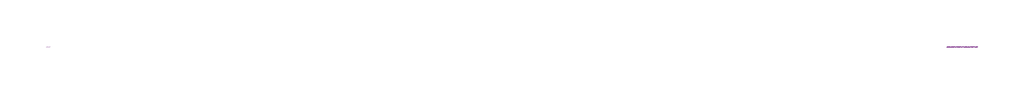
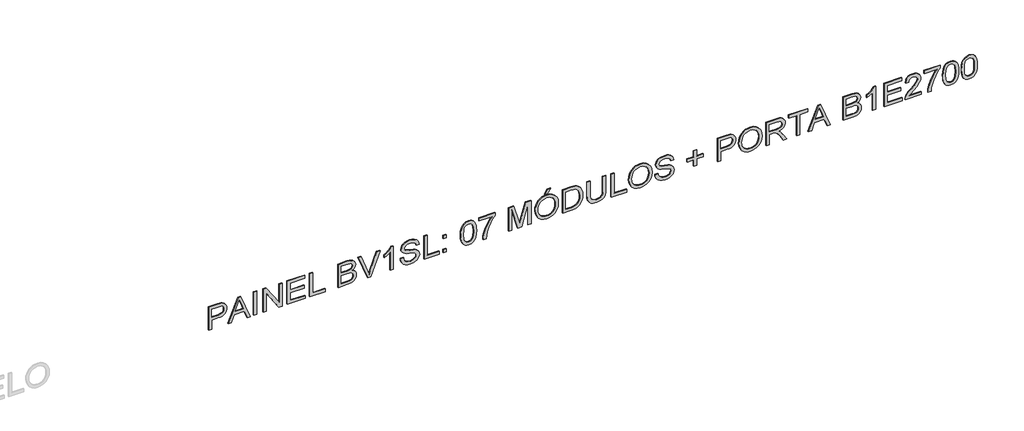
# One storey, part 2 of 2: 1 proxy.
"""IFC4 building model written with IfcOpenShell, lengths in millimetres."""

from ifc_helpers import new_model, si_unit, frame, origin, place, context, project, spatial, polyline, outline, extrude, element, save

model = new_model("IFC4")

# Units and contexts
model_context = context("Model", 3, world=origin())
ifc_project = project(units=[si_unit("LENGTHUNIT", "METRE", prefix="MILLI")], contexts=[model_context])

# Site, building, storey
site = spatial("IfcSite", under=ifc_project)
building = spatial("IfcBuilding", under=site)
storey = spatial("IfcBuildingStorey", under=building, Name="03 - Marelli - Planta Baixa - Exemplo", Elevation=-24000.0)

# Proxy
placement = place(None, origin())
element("IfcBuildingElementProxy", 1, Name="300mm Arial", ObjectType="300mm Arial", at=placement, inside=storey, context=model_context, shape_type="SweptSolid", body=[
    extrude(outline(polyline([(-18300.0, -3271.5424796), (-18300.0, -3233.8713633), (-18177.568872, -3233.8713633), (-18177.568872, -3157.2783319), (-18175.904206, -3128.0799978), (-18170.9102079, -3103.7606987), (-18162.5868778, -3084.3204345), (-18150.9342156, -3069.7592053), (-18136.8765248, -3059.1527075), (-18121.338109, -3051.5766377), (-18104.3189682, -3047.0309958), (-18085.8191024, -3045.5157818), (-18064.362385, -3047.759862), (-18044.7266835, -3054.4921025), (-18028.0800233, -3064.91236), (-18015.5904295, -3078.2204912), (-18006.8624292, -3094.7475898), (-18001.5005491, -3114.8247497), (-17998.6310696, -3159.8535059), (-17998.6310696, -3271.5424796), (-18300.0, -3271.5424796)]), holes=[polyline([(-18139.8977557, -3233.8713633), (-18036.3021859, -3233.8713633), (-18036.3021859, -3155.9539568), (-18038.8773598, -3118.2828405), (-18045.2049301, -3104.0550043), (-18055.9470844, -3092.8621946), (-18070.2209058, -3085.6057222), (-18087.1434776, -3083.1868981), (-18109.4187324, -3087.2887824), (-18126.0653927, -3099.5944351), (-18136.4396649, -3121.6673548), (-18139.8977557, -3155.07104), (-18139.8977557, -3233.8713633)])]), frame((0.0, 8778.3159498, 0.0), z_axis=(0.0, 1.0, 0.0), x_axis=(0.0, 0.0, 1.0)), (0.0, 0.0, 1.0), 10.0),
    extrude(outline(polyline([(-18300.0, -3028.8139392), (-18300.0, -2989.0091074), (-18205.8222092, -2954.5753526), (-18205.8222092, -2830.4519674), (-18300.0, -2795.9446363), (-18300.0, -2756.1398044), (-17998.6310696, -2876.4372168), (-17998.6310696, -2908.5165268), (-18300.0, -3028.8139392)]), holes=[polyline([(-18168.1510929, -2940.7429896), (-18087.584936, -2911.2388536), (-18036.3021859, -2892.4768718), (-18094.0596591, -2871.3604453), (-18168.1510929, -2844.210754), (-18168.1510929, -2940.7429896)])]), frame((0.0, 8778.3159498, 0.0), z_axis=(0.0, 1.0, 0.0), x_axis=(0.0, 0.0, 1.0)), (0.0, 0.0, 1.0), 10.0),
    extrude(outline(polyline([(-2673.5135083, 8778.3159498), (-2711.1846246, 8778.3159498), (-2711.1846246, 8788.3159498), (-2673.5135083, 8788.3159498), (-2673.5135083, 8778.3159498)])), frame((0.0, 0.0, -18300.0), z_axis=(0.0, 0.0, 1.0), x_axis=(1.0, 0.0, 0.0)), (0.0, 0.0, 1.0), 301.3689304),
    extrude(outline(polyline([(-18300.0, -2598.1712757), (-18300.0, -2560.5001594), (-18061.1710087, -2560.5001594), (-18300.0, -2403.0466654), (-18300.0, -2362.7267988), (-17998.6310696, -2362.7267988), (-17998.6310696, -2400.3979151), (-18237.3864844, -2400.3979151), (-17998.6310696, -2557.851409), (-17998.6310696, -2598.1712757), (-18300.0, -2598.1712757)])), frame((0.0, 8778.3159498, 0.0), z_axis=(0.0, 1.0, 0.0), x_axis=(0.0, 0.0, 1.0)), (0.0, 0.0, 1.0), 10.0),
    extrude(outline(polyline([(-18300.0, -2296.8023452), (-18300.0, -2075.4845369), (-18262.3288837, -2075.4845369), (-18262.3288837, -2259.1312289), (-18163.4422034, -2259.1312289), (-18163.4422034, -2089.6112055), (-18125.7710871, -2089.6112055), (-18125.7710871, -2259.1312289), (-18036.3021859, -2259.1312289), (-18036.3021859, -2080.1934265), (-17998.6310696, -2080.1934265), (-17998.6310696, -2296.8023452), (-18300.0, -2296.8023452)])), frame((0.0, 8778.3159498, 0.0), z_axis=(0.0, 1.0, 0.0), x_axis=(0.0, 0.0, 1.0)), (0.0, 0.0, 1.0), 10.0),
    extrude(outline(polyline([(-18300.0, -2018.9778625), (-18300.0, -1830.6222809), (-18262.3288837, -1830.6222809), (-18262.3288837, -1981.3067462), (-17998.6310696, -1981.3067462), (-17998.6310696, -2018.9778625), (-18300.0, -2018.9778625)])), frame((0.0, 8778.3159498, 0.0), z_axis=(0.0, 1.0, 0.0), x_axis=(0.0, 0.0, 1.0)), (0.0, 0.0, 1.0), 10.0),
    extrude(outline(polyline([(-18300.0, -1670.5200366), (-18300.0, -1556.4030417), (-18294.8128639, -1508.1001358), (-18288.3933231, -1490.064721), (-18279.5089729, -1475.32185), (-18267.2401083, -1463.2829117), (-18250.6670244, -1453.3592949), (-18231.1784758, -1446.7098278), (-18210.1632168, -1444.4933388), (-18184.944906, -1447.7398974), (-18163.2950506, -1457.4795732), (-18146.3356906, -1473.2525138), (-18135.1888662, -1494.5988665), (-18123.4442335, -1476.7289986), (-18108.5174215, -1464.0278727), (-18091.456894, -1456.4403066), (-18073.3111146, -1453.9111179), (-18053.5926396, -1456.9185532), (-18034.7570815, -1465.9408591), (-18018.7450176, -1480.2698628), (-18007.4970256, -1499.1973915), (-18000.8475586, -1523.8914704), (-17998.6310696, -1555.5201249), (-17998.6310696, -1670.5200366), (-18300.0, -1670.5200366)]), holes=[polyline([(-18121.0621975, -1632.8489203), (-18036.3021859, -1632.8489203), (-18036.3021859, -1569.2789116), (-18040.2385232, -1520.865641), (-18045.8395266, -1508.3760473), (-18054.769862, -1499.1606033), (-18066.2109921, -1493.4768265), (-18079.3443793, -1491.5822342), (-18092.8732397, -1493.6147822), (-18103.8821084, -1499.7124263), (-18112.2422267, -1509.8199841), (-18117.824836, -1523.8822734), (-18121.0621975, -1564.0549872), (-18121.0621975, -1632.8489203)]), polyline([(-18262.3288837, -1632.8489203), (-18158.7333139, -1632.8489203), (-18158.7333139, -1559.2725213), (-18159.9933097, -1532.4447268), (-18163.7732972, -1512.7354489), (-18170.6618875, -1498.8203124), (-18181.247692, -1489.3749422), (-18194.7857494, -1483.9670769), (-18210.5310988, -1482.1644551), (-18224.0875503, -1483.7003624), (-18235.9149564, -1488.3080844), (-18252.6535872, -1503.9798574), (-18260.8573557, -1527.6346697), (-18262.3288837, -1555.5937013), (-18262.3288837, -1632.8489203)])]), frame((0.0, 8778.3159498, 0.0), z_axis=(0.0, 1.0, 0.0), x_axis=(0.0, 0.0, 1.0)), (0.0, 0.0, 1.0), 10.0),
    extrude(outline(polyline([(-18300.0, -1303.668111), (-18300.0, -1264.746196), (-17998.6310696, -1149.8934371), (-17998.6310696, -1190.2133037), (-18215.7550231, -1270.7058843), (-18264.6833285, -1286.7455393), (-18215.7550231, -1303.0059235), (-17998.6310696, -1383.2777748), (-17998.6310696, -1423.5976415), (-18300.0, -1303.668111)])), frame((0.0, 8778.3159498, 0.0), z_axis=(0.0, 1.0, 0.0), x_axis=(0.0, 0.0, 1.0)), (0.0, 0.0, 1.0), 10.0),
    extrude(outline(polyline([(-18300.0, -987.7310536), (-17998.6310696, -987.7310536), (-17998.6310696, -1012.0112653), (-18018.3679386, -1025.3193964), (-18038.730207, -1045.525315), (-18057.8784649, -1071.157493), (-18073.9733022, -1100.7444025), (-18109.5842793, -1100.7444025), (-18090.5647801, -1061.0867234), (-18065.1441343, -1025.4021699), (-18300.0, -1025.4021699), (-18300.0, -987.7310536)])), frame((0.0, 8778.3159498, 0.0), z_axis=(0.0, 1.0, 0.0), x_axis=(0.0, 0.0, 1.0)), (0.0, 0.0, 1.0), 10.0),
    extrude(outline(polyline([(-18196.4044302, -898.2621524), (-18226.8282712, -893.7923861), (-18253.9411742, -882.0017682), (-18276.1980349, -863.6352596), (-18292.0537489, -839.4378213), (-18301.5451044, -809.0599656), (-18304.7088895, -772.1522044), (-18301.7750306, -742.0870484), (-18292.9734539, -715.1672834), (-18278.8835735, -692.781664), (-18260.0848035, -676.3189447), (-18238.2418101, -666.1929928), (-18215.0192591, -662.8176754), (-18192.3025459, -665.7515344), (-18172.4185241, -674.5531111), (-18155.5511346, -689.5351053), (-18141.8843185, -711.0102168), (-18133.0735447, -736.1365571), (-18122.9751839, -777.6704343), (-18112.3433943, -817.9167246), (-18101.9323338, -839.1803039), (-18090.2888686, -848.1750187), (-18075.8127121, -851.173257), (-18058.8349581, -846.942614), (-18044.5427425, -834.2506852), (-18034.8306579, -812.3065242), (-18031.5932963, -780.3191847), (-18034.8674461, -749.0676092), (-18044.6898953, -726.534837), (-18060.9134913, -712.1138628), (-18083.3910812, -705.1976813), (-18083.3910812, -667.526565), (-18058.4302879, -671.775602), (-18036.2286095, -682.462574), (-18017.9264802, -699.3483576), (-18004.6643343, -722.1938295), (-17996.6077186, -750.0057083), (-17993.92218, -781.7907127), (-17996.4881569, -811.1293018), (-18004.1860877, -837.6351996), (-18016.8412283, -859.7173163), (-18034.2788349, -875.7845625), (-18054.8526355, -885.5794206), (-18076.9163581, -888.8443733), (-18096.6532272, -886.20482), (-18114.3667452, -878.28616), (-18129.7258185, -864.9964229), (-18142.3993533, -846.2436382), (-18151.4584474, -823.2050283), (-18160.977394, -787.198578), (-18175.36158, -732.3473725), (-18183.1698754, -716.2709293), (-18192.4680928, -706.7427857), (-18203.3665969, -702.0522902), (-18215.9757523, -700.4887918), (-18228.9160015, -702.5765221), (-18241.2492454, -708.839713), (-18251.9913996, -719.3703352), (-18260.1583799, -734.2603589), (-18265.3179249, -752.6360646), (-18267.0377732, -773.6237324), (-18264.7661019, -797.4624857), (-18257.951088, -818.7996414), (-18247.448057, -836.2556421), (-18234.1123347, -848.4509302), (-18217.3093245, -856.2684226), (-18196.4044302, -860.5910361), (-18196.4044302, -898.2621524)])), frame((0.0, 8778.3159498, 0.0), z_axis=(0.0, 1.0, 0.0), x_axis=(0.0, 0.0, 1.0)), (0.0, 0.0, 1.0), 10.0),
    extrude(outline(polyline([(-18300.0, -606.311001), (-18300.0, -417.9554195), (-18262.3288837, -417.9554195), (-18262.3288837, -568.6398847), (-17998.6310696, -568.6398847), (-17998.6310696, -606.311001), (-18300.0, -606.311001)])), frame((0.0, 8778.3159498, 0.0), z_axis=(0.0, 1.0, 0.0), x_axis=(0.0, 0.0, 1.0)), (0.0, 0.0, 1.0), 10.0),
    extrude(outline(polyline([(-333.1954078, 8778.3159498), (-370.8665241, 8778.3159498), (-370.8665241, 8788.3159498), (-333.1954078, 8788.3159498), (-333.1954078, 8778.3159498)])), frame((0.0, 0.0, -18116.353308), z_axis=(0.0, 0.0, 1.0), x_axis=(1.0, 0.0, 0.0)), (0.0, 0.0, 1.0), 37.6711163),
    extrude(outline(polyline([(-333.1954078, 8778.3159498), (-370.8665241, 8778.3159498), (-370.8665241, 8788.3159498), (-333.1954078, 8788.3159498), (-333.1954078, 8778.3159498)])), frame((0.0, 0.0, -18300.0), z_axis=(0.0, 0.0, 1.0), x_axis=(1.0, 0.0, 0.0)), (0.0, 0.0, 1.0), 37.6711163),
    extrude(outline(polyline([(-18151.7435559, -154.2576053), (-18191.1851044, -152.3814071), (-18225.0440435, -146.7528126), (-18253.3203733, -137.3718217), (-18276.0140939, -124.2384345), (-18288.568067, -110.5532243), (-18297.5351906, -94.5135693), (-18302.9154648, -76.1194695), (-18304.7088895, -55.370925), (-18300.5794141, -24.9194929), (-18288.190988, -0.2254139), (-18267.4056552, 18.8768587), (-18238.0854602, 32.5528718), (-18199.7061711, 40.7750344), (-18151.7435559, 43.5157553), (-18111.7823742, 41.805104), (-18080.9262719, 36.6731502), (-18056.6276661, 28.8372637), (-18036.3389741, 19.0148144), (-18020.1981515, 6.0101859), (-18008.3431542, -11.3722384), (-18001.0590907, -32.1575711), (-17998.6310696, -55.370925), (-18002.7329538, -85.6568103), (-18015.0386065, -110.2957069), (-18035.7411658, -129.4255706), (-18065.0337697, -143.1843573), (-18103.5050293, -151.4892933), (-18151.7435559, -154.2576053)]), holes=[polyline([(-18151.6699795, -116.586489), (-18093.1767423, -112.0247523), (-18072.097104, -106.3225813), (-18056.4621192, -98.3395421), (-18041.3421692, -79.3936193), (-18036.3021859, -55.8123834), (-18042.0227509, -30.9067723), (-18059.184446, -11.2250856), (-18073.5456393, -3.7570811), (-18093.7469594, 1.5772078), (-18151.6699795, 5.844639), (-18210.8346014, 1.430055), (-18231.0980016, -4.0881749), (-18245.1487945, -11.8136968), (-18261.5655286, -31.5321717), (-18267.0377732, -55.370925), (-18261.5839227, -79.2096783), (-18245.2223709, -98.9281532), (-18231.1945706, -106.6536751), (-18210.9265719, -112.1719051), (-18151.6699795, -116.586489)])]), frame((0.0, 8778.3159498, 0.0), z_axis=(0.0, 1.0, 0.0), x_axis=(0.0, 0.0, 1.0)), (0.0, 0.0, 1.0), 10.0),
    extrude(outline(polyline([(-18041.0110754, 76.4779821), (-18041.0110754, 236.5802264), (-18076.3553381, 207.2600313), (-18118.9652702, 179.6320935), (-18166.1001508, 155.9680842), (-18215.0192591, 138.5396746), (-18261.1700554, 127.6411705), (-18300.0, 123.5668774), (-18300.0, 161.2379937), (-18257.2705063, 166.2411889), (-18218.1094679, 175.2175096), (-18165.769057, 193.5288359), (-18114.8449918, 218.1493384), (-18069.4759448, 246.0623848), (-18033.8005883, 274.2513427), (-18003.3399591, 274.2513427), (-18003.3399591, 76.4779821), (-18041.0110754, 76.4779821)])), frame((0.0, 8778.3159498, 0.0), z_axis=(0.0, 1.0, 0.0), x_axis=(0.0, 0.0, 1.0)), (0.0, 0.0, 1.0), 10.0),
    extrude(outline(polyline([(-18300.0, 439.0624765), (-18300.0, 476.7335928), (-18036.3021859, 476.7335928), (-18300.0, 552.4437074), (-18300.0, 603.5057283), (-18036.3021859, 679.215843), (-18300.0, 679.215843), (-18300.0, 716.8869593), (-17998.6310696, 716.8869593), (-17998.6310696, 652.0661517), (-18207.3673136, 591.4391989), (-18255.4127022, 577.9747179), (-18211.0461336, 565.5403064), (-17998.6310696, 503.8832841), (-17998.6310696, 439.0624765), (-18300.0, 439.0624765)])), frame((0.0, 8778.3159498, 0.0), z_axis=(0.0, 1.0, 0.0), x_axis=(0.0, 0.0, 1.0)), (0.0, 0.0, 1.0), 10.0),
    extrude(outline(polyline([(-18153.2886603, 768.6847442), (-18191.8334964, 772.9889635), (-18228.2997991, 785.9016216), (-18259.992833, 807.1652009), (-18284.2178624, 836.5221841), (-18299.5861328, 872.1699494), (-18304.7088895, 912.3058751), (-18300.0735764, 950.1149472), (-18286.167637, 985.2568747), (-18263.2485887, 1015.2208633), (-18231.5739489, 1037.4961181), (-18193.1118863, 1051.319284), (-18149.8305696, 1055.927006), (-18107.1194699, 1051.5492103), (-18069.1908362, 1038.415823), (-18037.5713787, 1016.9315145), (-18013.7878078, 987.5009549), (-17998.8885869, 952.0555247), (-17993.92218, 912.5266043), (-17996.5663319, 882.2361205), (-18004.4987874, 854.8611016), (-18017.7195466, 830.4015474), (-18036.2286095, 808.8574581), (-18059.4097737, 791.2818957), (-18086.6468369, 778.7279227), (-18117.9397991, 771.1955388), (-18153.2886603, 768.6847442)]), holes=[polyline([(-18153.6565423, 806.3558605), (-18123.1200375, 808.3194306), (-18097.2878236, 814.2101411), (-18076.1599008, 824.0279918), (-18059.736269, 837.7729829), (-18047.4237184, 854.2403007), (-18038.6290395, 872.2251317), (-18033.3522321, 891.727476), (-18031.5932963, 912.7473335), (-18035.2445251, 941.9111787), (-18046.1982115, 968.0399974), (-18063.7921679, 989.6990498), (-18087.3642068, 1005.4535963), (-18116.1877611, 1015.0553164), (-18149.536264, 1018.2558897), (-18176.0743514, 1016.3865893), (-18199.4026684, 1010.7786882), (-18219.521215, 1001.4321862), (-18236.4299912, 988.3470835), (-18249.8208959, 972.3649101), (-18259.3858277, 954.327196), (-18265.1247869, 934.2339413), (-18267.0377732, 912.0851459), (-18265.143181, 890.3088311), (-18259.4594041, 870.4501011), (-18249.9864428, 852.508956), (-18236.7242968, 836.4853959), (-18220.1650085, 823.3037242), (-18200.80062, 813.8882443), (-18178.6311313, 808.2389565), (-18153.6565423, 806.3558605)])]), frame((0.0, 8778.3159498, 0.0), z_axis=(0.0, 1.0, 0.0), x_axis=(0.0, 0.0, 1.0)), (0.0, 0.0, 1.0), 10.0),
    extrude(outline(polyline([(-17979.7955114, 886.4069826), (-17979.7955114, 914.6603199), (-17923.2888369, 961.7492153), (-17923.2888369, 914.6603199), (-17979.7955114, 886.4069826)])), frame((0.0, 8778.3159498, 0.0), z_axis=(0.0, 1.0, 0.0), x_axis=(0.0, 0.0, 1.0)), (0.0, 0.0, 1.0), 10.0),
    extrude(outline(polyline([(-18300.0, 1107.7247909), (-18300.0, 1216.6914379), (-18294.8496521, 1265.1414967), (-18288.4944906, 1284.6852277), (-18279.7297021, 1301.157144), (-18267.911493, 1315.5045418), (-18252.3960698, 1328.6747172), (-18232.7419742, 1340.1158473), (-18208.5077478, 1349.276109), (-18180.0428784, 1355.2909796), (-18147.696854, 1357.2959365), (-18109.6210675, 1354.3344864), (-18076.0334413, 1345.4501362), (-18047.4857985, 1330.6060977), (-18024.529962, 1309.7655827), (-18011.3413925, 1289.4952848), (-18002.9720771, 1265.4725905), (-17998.6310696, 1211.6882428), (-17998.6310696, 1107.7247909), (-18300.0, 1107.7247909)]), holes=[polyline([(-18262.3288837, 1145.3959072), (-18036.3021859, 1145.3959072), (-18036.3021859, 1211.0260552), (-18037.810502, 1242.7742714), (-18042.3354506, 1264.4425209), (-18054.9170148, 1285.7336914), (-18075.7391357, 1303.548377), (-18106.0526121, 1315.6057094), (-18147.1082428, 1319.6248202), (-18178.0931038, 1317.573878), (-18204.0931639, 1311.4210517), (-18225.2003933, 1301.5894053), (-18241.5067628, 1288.5020034), (-18250.3175366, 1276.3251093), (-18256.8842302, 1260.5429717), (-18260.9677203, 1239.6288803), (-18262.3288837, 1212.0561248), (-18262.3288837, 1145.3959072)])]), frame((0.0, 8778.3159498, 0.0), z_axis=(0.0, 1.0, 0.0), x_axis=(0.0, 0.0, 1.0)), (0.0, 0.0, 1.0), 10.0),
    extrude(outline(polyline([(-17998.6310696, 1606.867082), (-18171.1677253, 1606.867082), (-18218.3301971, 1602.1030102), (-18235.0688279, 1596.1479204), (-18247.2457219, 1587.8107946), (-18255.9047444, 1576.6777658), (-18262.0897604, 1562.3349665), (-18267.0377732, 1524.0200567), (-18264.5361757, 1499.8502096), (-18257.031383, 1479.7270645), (-18244.9188683, 1464.2944148), (-18228.5941047, 1454.196054), (-18205.0220659, 1448.6226418), (-18171.1677253, 1446.7648377), (-17998.6310696, 1446.7648377), (-17998.6310696, 1409.0937214), (-18172.4921005, 1409.0937214), (-18215.2675795, 1411.9540039), (-18247.9446977, 1420.5348514), (-18272.3076828, 1435.8019542), (-18290.1407625, 1458.7210025), (-18301.0668578, 1489.3011934), (-18304.7088895, 1527.5517238), (-18300.5242318, 1566.6575799), (-18287.9702588, 1597.4493029), (-18268.7484245, 1619.9820751), (-18244.5601833, 1634.3110788), (-18213.2074403, 1641.9814184), (-18172.4921005, 1644.5381983), (-17998.6310696, 1644.5381983), (-17998.6310696, 1606.867082)])), frame((0.0, 8778.3159498, 0.0), z_axis=(0.0, 1.0, 0.0), x_axis=(0.0, 0.0, 1.0)), (0.0, 0.0, 1.0), 10.0),
    extrude(outline(polyline([(-18300.0, 1710.4626518), (-18300.0, 1898.8182334), (-18262.3288837, 1898.8182334), (-18262.3288837, 1748.1337681), (-17998.6310696, 1748.1337681), (-17998.6310696, 1710.4626518), (-18300.0, 1710.4626518)])), frame((0.0, 8778.3159498, 0.0), z_axis=(0.0, 1.0, 0.0), x_axis=(0.0, 0.0, 1.0)), (0.0, 0.0, 1.0), 10.0),
    extrude(outline(polyline([(-18153.2886603, 1927.0715706), (-18191.8334964, 1931.3757899), (-18228.2997991, 1944.288448), (-18259.992833, 1965.5520273), (-18284.2178624, 1994.9090105), (-18299.5861328, 2030.5567758), (-18304.7088895, 2070.6927015), (-18300.0735764, 2108.5017736), (-18286.167637, 2143.6437012), (-18263.2485887, 2173.6076897), (-18231.5739489, 2195.8829445), (-18193.1118863, 2209.7061104), (-18149.8305696, 2214.3138324), (-18107.1194699, 2209.9360367), (-18069.1908362, 2196.8026495), (-18037.5713787, 2175.3183409), (-18013.7878078, 2145.8877813), (-17998.8885869, 2110.4423511), (-17993.92218, 2070.9134307), (-17996.5663319, 2040.6229469), (-18004.4987874, 2013.247928), (-18017.7195466, 1988.7883738), (-18036.2286095, 1967.2442845), (-18059.4097737, 1949.6687221), (-18086.6468369, 1937.1147491), (-18117.9397991, 1929.5823652), (-18153.2886603, 1927.0715706)]), holes=[polyline([(-18153.6565423, 1964.7426869), (-18123.1200375, 1966.7062571), (-18097.2878236, 1972.5969675), (-18076.1599008, 1982.4148182), (-18059.736269, 1996.1598093), (-18047.4237184, 2012.6271271), (-18038.6290395, 2030.6119581), (-18033.3522321, 2050.1143024), (-18031.5932963, 2071.1341599), (-18035.2445251, 2100.2980051), (-18046.1982115, 2126.4268238), (-18063.7921679, 2148.0858762), (-18087.3642068, 2163.8404227), (-18116.1877611, 2173.4421428), (-18149.536264, 2176.6427161), (-18176.0743514, 2174.7734157), (-18199.4026684, 2169.1655146), (-18219.521215, 2159.8190126), (-18236.4299912, 2146.7339099), (-18249.8208959, 2130.7517365), (-18259.3858277, 2112.7140224), (-18265.1247869, 2092.6207677), (-18267.0377732, 2070.4719723), (-18265.143181, 2048.6956575), (-18259.4594041, 2028.8369275), (-18249.9864428, 2010.8957825), (-18236.7242968, 1994.8722223), (-18220.1650085, 1981.6905506), (-18200.80062, 1972.2750708), (-18178.6311313, 1966.6257829), (-18153.6565423, 1964.7426869)])]), frame((0.0, 8778.3159498, 0.0), z_axis=(0.0, 1.0, 0.0), x_axis=(0.0, 0.0, 1.0)), (0.0, 0.0, 1.0), 10.0),
    extrude(outline(polyline([(-18196.4044302, 2251.9849487), (-18226.8282712, 2256.454715), (-18253.9411742, 2268.2453329), (-18276.1980349, 2286.6118415), (-18292.0537489, 2310.8092798), (-18301.5451044, 2341.1871355), (-18304.7088895, 2378.0948967), (-18301.7750306, 2408.1600527), (-18292.9734539, 2435.0798177), (-18278.8835735, 2457.4654371), (-18260.0848035, 2473.9281564), (-18238.2418101, 2484.0541083), (-18215.0192591, 2487.4294256), (-18192.3025459, 2484.4955667), (-18172.4185241, 2475.69399), (-18155.5511346, 2460.7119957), (-18141.8843185, 2439.2368843), (-18133.0735447, 2414.110544), (-18122.9751839, 2372.5766668), (-18112.3433943, 2332.3303765), (-18101.9323338, 2311.0667972), (-18090.2888686, 2302.0720824), (-18075.8127121, 2299.0738441), (-18058.8349581, 2303.3044871), (-18044.5427425, 2315.9964159), (-18034.8306579, 2337.9405769), (-18031.5932963, 2369.9279164), (-18034.8674461, 2401.1794919), (-18044.6898953, 2423.7122641), (-18060.9134913, 2438.1332383), (-18083.3910812, 2445.0494198), (-18083.3910812, 2482.7205361), (-18058.4302879, 2478.4714991), (-18036.2286095, 2467.7845271), (-18017.9264802, 2450.8987435), (-18004.6643343, 2428.0532716), (-17996.6077186, 2400.2413928), (-17993.92218, 2368.4563884), (-17996.4881569, 2339.1177993), (-18004.1860877, 2312.6119015), (-18016.8412283, 2290.5297848), (-18034.2788349, 2274.4625386), (-18054.8526355, 2264.6676805), (-18076.9163581, 2261.4027278), (-18096.6532272, 2264.0422811), (-18114.3667452, 2271.9609411), (-18129.7258185, 2285.2506781), (-18142.3993533, 2304.0034629), (-18151.4584474, 2327.0420728), (-18160.977394, 2363.0485231), (-18175.36158, 2417.8997286), (-18183.1698754, 2433.9761717), (-18192.4680928, 2443.5043154), (-18203.3665969, 2448.1948109), (-18215.9757523, 2449.7583093), (-18228.9160015, 2447.670579), (-18241.2492454, 2441.4073881), (-18251.9913996, 2430.8767659), (-18260.1583799, 2415.9867422), (-18265.3179249, 2397.6110365), (-18267.0377732, 2376.6233687), (-18264.7661019, 2352.7846154), (-18257.951088, 2331.4474597), (-18247.448057, 2313.991459), (-18234.1123347, 2301.7961709), (-18217.3093245, 2293.9786785), (-18196.4044302, 2289.656065), (-18196.4044302, 2251.9849487)])), frame((0.0, 8778.3159498, 0.0), z_axis=(0.0, 1.0, 0.0), x_axis=(0.0, 0.0, 1.0)), (0.0, 0.0, 1.0), 10.0),
    extrude(outline(polyline([(-18252.9111046, 2732.2916816), (-18252.9111046, 2769.9627979), (-18172.8599825, 2769.9627979), (-18172.8599825, 2850.0139201), (-18135.1888662, 2850.0139201), (-18135.1888662, 2769.9627979), (-18055.137744, 2769.9627979), (-18055.137744, 2732.2916816), (-18135.1888662, 2732.2916816), (-18135.1888662, 2652.2405595), (-18172.8599825, 2652.2405595), (-18172.8599825, 2732.2916816), (-18252.9111046, 2732.2916816)])), frame((0.0, 8778.3159498, 0.0), z_axis=(0.0, 1.0, 0.0), x_axis=(0.0, 0.0, 1.0)), (0.0, 0.0, 1.0), 10.0),
    extrude(outline(polyline([(-18300.0, 3024.242833), (-18300.0, 3061.9139493), (-18177.568872, 3061.9139493), (-18177.568872, 3138.5069807), (-18175.904206, 3167.7053148), (-18170.9102079, 3192.024614), (-18162.5868778, 3211.4648781), (-18150.9342156, 3226.0261074), (-18136.8765248, 3236.6326051), (-18121.338109, 3244.208675), (-18104.3189682, 3248.7543169), (-18085.8191024, 3250.2695308), (-18064.362385, 3248.0254507), (-18044.7266835, 3241.2932102), (-18028.0800233, 3230.8729527), (-18015.5904295, 3217.5648215), (-18006.8624292, 3201.0377228), (-18001.5005491, 3180.960563), (-17998.6310696, 3135.9318067), (-17998.6310696, 3024.242833), (-18300.0, 3024.242833)]), holes=[polyline([(-18139.8977557, 3061.9139493), (-18036.3021859, 3061.9139493), (-18036.3021859, 3139.8313559), (-18038.8773598, 3177.5024722), (-18045.2049301, 3191.7303084), (-18055.9470844, 3202.9231181), (-18070.2209058, 3210.1795904), (-18087.1434776, 3212.5984145), (-18109.4187324, 3208.4965303), (-18126.0653927, 3196.1908776), (-18136.4396649, 3174.1179578), (-18139.8977557, 3140.7142727), (-18139.8977557, 3061.9139493)])]), frame((0.0, 8778.3159498, 0.0), z_axis=(0.0, 1.0, 0.0), x_axis=(0.0, 0.0, 1.0)), (0.0, 0.0, 1.0), 10.0),
    extrude(outline(polyline([(-18153.2886603, 3287.9406472), (-18191.8334964, 3292.2448665), (-18228.2997991, 3305.1575245), (-18259.992833, 3326.4211038), (-18284.2178624, 3355.7780871), (-18299.5861328, 3391.4258524), (-18304.7088895, 3431.5617781), (-18300.0735764, 3469.3708501), (-18286.167637, 3504.5127777), (-18263.2485887, 3534.4767662), (-18231.5739489, 3556.752021), (-18193.1118863, 3570.575187), (-18149.8305696, 3575.182909), (-18107.1194699, 3570.8051132), (-18069.1908362, 3557.671726), (-18037.5713787, 3536.1874175), (-18013.7878078, 3506.7568579), (-17998.8885869, 3471.3114276), (-17993.92218, 3431.7825073), (-17996.5663319, 3401.4920235), (-18004.4987874, 3374.1170045), (-18017.7195466, 3349.6574504), (-18036.2286095, 3328.113361), (-18059.4097737, 3310.5377987), (-18086.6468369, 3297.9838256), (-18117.9397991, 3290.4514418), (-18153.2886603, 3287.9406472)]), holes=[polyline([(-18153.6565423, 3325.6117635), (-18123.1200375, 3327.5753336), (-18097.2878236, 3333.4660441), (-18076.1599008, 3343.2838948), (-18059.736269, 3357.0288858), (-18047.4237184, 3373.4962037), (-18038.6290395, 3391.4810347), (-18033.3522321, 3410.983379), (-18031.5932963, 3432.0032365), (-18035.2445251, 3461.1670816), (-18046.1982115, 3487.2959003), (-18063.7921679, 3508.9549528), (-18087.3642068, 3524.7094992), (-18116.1877611, 3534.3112193), (-18149.536264, 3537.5117927), (-18176.0743514, 3535.6424923), (-18199.4026684, 3530.0345911), (-18219.521215, 3520.6880892), (-18236.4299912, 3507.6029865), (-18249.8208959, 3491.620813), (-18259.3858277, 3473.583099), (-18265.1247869, 3453.4898442), (-18267.0377732, 3431.3410489), (-18265.143181, 3409.564734), (-18259.4594041, 3389.7060041), (-18249.9864428, 3371.764859), (-18236.7242968, 3355.7412989), (-18220.1650085, 3342.5596271), (-18200.80062, 3333.1441473), (-18178.6311313, 3327.4948594), (-18153.6565423, 3325.6117635)])]), frame((0.0, 8778.3159498, 0.0), z_axis=(0.0, 1.0, 0.0), x_axis=(0.0, 0.0, 1.0)), (0.0, 0.0, 1.0), 10.0),
    extrude(outline(polyline([(-18300.0, 3626.9806939), (-18300.0, 3664.6518102), (-18168.1510929, 3664.6518102), (-18168.1510929, 3710.1220248), (-18169.4754681, 3731.9742153), (-18176.649167, 3749.8900685), (-18196.183701, 3769.7924844), (-18237.5336372, 3798.1193981), (-18300.0, 3837.3356188), (-18300.0, 3881.1135762), (-18218.3301971, 3830.8608956), (-18179.5554348, 3800.32669), (-18163.4422034, 3778.9159579), (-18153.4542072, 3816.0260542), (-18145.4389783, 3830.4079409), (-18135.4095954, 3842.0077201), (-18110.7982899, 3857.3208081), (-18081.1102129, 3862.4251708), (-18057.2438684, 3859.3441591), (-18035.5296337, 3850.101124), (-18018.0184507, 3835.6985439), (-18006.7612616, 3817.1388972), (-18000.6636176, 3791.7458425), (-17998.6310696, 3756.8430382), (-17998.6310696, 3626.9806939), (-18300.0, 3626.9806939)]), holes=[polyline([(-18130.4799766, 3664.6518102), (-18036.3021859, 3664.6518102), (-18036.3021859, 3758.461719), (-18039.5579415, 3788.2693576), (-18049.3252085, 3808.8247641), (-18064.1324588, 3820.7717319), (-18082.5081645, 3824.7540545), (-18095.8162956, 3822.6663242), (-18108.0759631, 3816.4031332), (-18118.2111121, 3806.1208315), (-18125.1456877, 3791.9757687), (-18129.1464044, 3773.1861958), (-18130.4799766, 3748.9703635), (-18130.4799766, 3664.6518102)])]), frame((0.0, 8778.3159498, 0.0), z_axis=(0.0, 1.0, 0.0), x_axis=(0.0, 0.0, 1.0)), (0.0, 0.0, 1.0), 10.0),
    extrude(outline(polyline([(-18300.0, 4003.691857), (-18300.0, 4041.3629733), (-18036.3021859, 4041.3629733), (-18036.3021859, 4140.2496536), (-17998.6310696, 4140.2496536), (-17998.6310696, 3904.8051767), (-18036.3021859, 3904.8051767), (-18036.3021859, 4003.691857), (-18300.0, 4003.691857)])), frame((0.0, 8778.3159498, 0.0), z_axis=(0.0, 1.0, 0.0), x_axis=(0.0, 0.0, 1.0)), (0.0, 0.0, 1.0), 10.0),
    extrude(outline(polyline([(-18300.0, 4147.5337171), (-18300.0, 4187.338549), (-18205.8222092, 4221.7723037), (-18205.8222092, 4345.8956889), (-18300.0, 4380.40302), (-18300.0, 4420.2078519), (-17998.6310696, 4299.9104395), (-17998.6310696, 4267.8311295), (-18300.0, 4147.5337171)]), holes=[polyline([(-18168.1510929, 4235.6046667), (-18087.584936, 4265.1088027), (-18036.3021859, 4283.8707845), (-18094.0596591, 4304.987211), (-18168.1510929, 4332.1369023), (-18168.1510929, 4235.6046667)])]), frame((0.0, 8778.3159498, 0.0), z_axis=(0.0, 1.0, 0.0), x_axis=(0.0, 0.0, 1.0)), (0.0, 0.0, 1.0), 10.0),
    extrude(outline(polyline([(-18300.0, 4578.1763806), (-18300.0, 4692.2933755), (-18294.8128639, 4740.5962815), (-18288.3933231, 4758.6316963), (-18279.5089729, 4773.3745673), (-18267.2401083, 4785.4135056), (-18250.6670244, 4795.3371224), (-18231.1784758, 4801.9865895), (-18210.1632168, 4804.2030785), (-18184.944906, 4800.9565199), (-18163.2950506, 4791.216844), (-18146.3356906, 4775.4439035), (-18135.1888662, 4754.0975507), (-18123.4442335, 4771.9674186), (-18108.5174215, 4784.6685445), (-18091.456894, 4792.2561107), (-18073.3111146, 4794.7852994), (-18053.5926396, 4791.7778641), (-18034.7570815, 4782.7555582), (-18018.7450176, 4768.4265544), (-18007.4970256, 4749.4990258), (-18000.8475586, 4724.8049469), (-17998.6310696, 4693.1762923), (-17998.6310696, 4578.1763806), (-18300.0, 4578.1763806)]), holes=[polyline([(-18121.0621975, 4615.8474969), (-18036.3021859, 4615.8474969), (-18036.3021859, 4679.4175057), (-18040.2385232, 4727.8307763), (-18045.8395266, 4740.32037), (-18054.769862, 4749.535814), (-18066.2109921, 4755.2195908), (-18079.3443793, 4757.1141831), (-18092.8732397, 4755.0816351), (-18103.8821084, 4748.983991), (-18112.2422267, 4738.8764332), (-18117.824836, 4724.8141439), (-18121.0621975, 4684.64143), (-18121.0621975, 4615.8474969)]), polyline([(-18262.3288837, 4615.8474969), (-18158.7333139, 4615.8474969), (-18158.7333139, 4689.423896), (-18159.9933097, 4716.2516905), (-18163.7732972, 4735.9609684), (-18170.6618875, 4749.8761048), (-18181.247692, 4759.3214751), (-18194.7857494, 4764.7293404), (-18210.5310988, 4766.5319622), (-18224.0875503, 4764.9960548), (-18235.9149564, 4760.3883328), (-18252.6535872, 4744.7165599), (-18260.8573557, 4721.0617476), (-18262.3288837, 4693.1027159), (-18262.3288837, 4615.8474969)])]), frame((0.0, 8778.3159498, 0.0), z_axis=(0.0, 1.0, 0.0), x_axis=(0.0, 0.0, 1.0)), (0.0, 0.0, 1.0), 10.0),
    extrude(outline(polyline([(-18300.0, 4983.1408809), (-17998.6310696, 4983.1408809), (-17998.6310696, 4958.8606692), (-18018.3679386, 4945.5525381), (-18038.730207, 4925.3466195), (-18057.8784649, 4899.7144415), (-18073.9733022, 4870.127532), (-18109.5842793, 4870.127532), (-18090.5647801, 4909.7852111), (-18065.1441343, 4945.4697646), (-18300.0, 4945.4697646), (-18300.0, 4983.1408809)])), frame((0.0, 8778.3159498, 0.0), z_axis=(0.0, 1.0, 0.0), x_axis=(0.0, 0.0, 1.0)), (0.0, 0.0, 1.0), 10.0),
    extrude(outline(polyline([(-18300.0, 5086.7364508), (-18300.0, 5308.0542591), (-18262.3288837, 5308.0542591), (-18262.3288837, 5124.4075671), (-18163.4422034, 5124.4075671), (-18163.4422034, 5293.9275905), (-18125.7710871, 5293.9275905), (-18125.7710871, 5124.4075671), (-18036.3021859, 5124.4075671), (-18036.3021859, 5303.3453695), (-17998.6310696, 5303.3453695), (-17998.6310696, 5086.7364508), (-18300.0, 5086.7364508)])), frame((0.0, 8778.3159498, 0.0), z_axis=(0.0, 1.0, 0.0), x_axis=(0.0, 0.0, 1.0)), (0.0, 0.0, 1.0), 10.0),
    extrude(outline(polyline([(-18262.3288837, 5543.498736), (-18262.3288837, 5395.5365975), (-18243.1622317, 5412.5327457), (-18206.9258552, 5455.8692447), (-18177.9091629, 5488.5647571), (-18155.3120113, 5509.8375334), (-18136.3844826, 5523.1824528), (-18118.376659, 5532.0943941), (-18100.672338, 5537.1159834), (-18082.6553172, 5538.7898464), (-18065.5028192, 5537.2378443), (-18049.8034551, 5532.5818378), (-18035.5572248, 5524.8218269), (-18022.7641284, 5513.9578118), (-18012.2059152, 5500.4312507), (-18004.6643343, 5484.683602), (-18000.1393857, 5466.7148658), (-17998.6310696, 5446.5250421), (-18004.057329, 5408.6423936), (-18010.8401533, 5392.9085405), (-18020.3361073, 5379.3130015), (-18032.4164323, 5368.113294), (-18046.9523696, 5359.5669354), (-18083.3910812, 5350.4342649), (-18088.0999708, 5388.1053812), (-18066.4501154, 5392.1796743), (-18050.0609725, 5403.9610952), (-18039.7418825, 5422.2172392), (-18036.3021859, 5445.7157017), (-18039.824656, 5468.092124), (-18050.3920663, 5485.7780509), (-18066.0730363, 5497.2835603), (-18084.9361856, 5501.1187301), (-18105.9790357, 5497.0536341), (-18127.6104971, 5484.8583459), (-18154.2635476, 5460.4677697), (-18190.3711654, 5419.8168092), (-18213.4281695, 5392.3176301), (-18234.0387583, 5372.6543374), (-18253.7296421, 5359.0610977), (-18274.0275311, 5349.7720773), (-18300.0, 5345.7253754), (-18300.0, 5543.498736), (-18262.3288837, 5543.498736)])), frame((0.0, 8778.3159498, 0.0), z_axis=(0.0, 1.0, 0.0), x_axis=(0.0, 0.0, 1.0)), (0.0, 0.0, 1.0), 10.0),
    extrude(outline(polyline([(-18041.0110754, 5581.1698523), (-18041.0110754, 5741.2720966), (-18076.3553381, 5711.9519016), (-18118.9652702, 5684.3239637), (-18166.1001508, 5660.6599544), (-18215.0192591, 5643.2315449), (-18261.1700554, 5632.3330408), (-18300.0, 5628.2587477), (-18300.0, 5665.929864), (-18257.2705063, 5670.9330591), (-18218.1094679, 5679.9093798), (-18165.769057, 5698.2207061), (-18114.8449918, 5722.8412086), (-18069.4759448, 5750.754255), (-18033.8005883, 5778.9432129), (-18003.3399591, 5778.9432129), (-18003.3399591, 5581.1698523), (-18041.0110754, 5581.1698523)])), frame((0.0, 8778.3159498, 0.0), z_axis=(0.0, 1.0, 0.0), x_axis=(0.0, 0.0, 1.0)), (0.0, 0.0, 1.0), 10.0),
    extrude(outline(polyline([(-18151.7435559, 5811.9054397), (-18191.1851044, 5813.7816378), (-18225.0440435, 5819.4102324), (-18253.3203733, 5828.7912232), (-18276.0140939, 5841.9246105), (-18288.568067, 5855.6098207), (-18297.5351906, 5871.6494757), (-18302.9154648, 5890.0435754), (-18304.7088895, 5910.79212), (-18300.5794141, 5941.2435521), (-18288.190988, 5965.937631), (-18267.4056552, 5985.0399036), (-18238.0854602, 5998.7159168), (-18199.7061711, 6006.9380794), (-18151.7435559, 6009.6788003), (-18111.7823742, 6007.968149), (-18080.9262719, 6002.8361952), (-18056.6276661, 5995.0003087), (-18036.3389741, 5985.1778594), (-18020.1981515, 5972.1732309), (-18008.3431542, 5954.7908066), (-18001.0590907, 5934.0054739), (-17998.6310696, 5910.79212), (-18002.7329538, 5880.5062347), (-18015.0386065, 5855.8673381), (-18035.7411658, 5836.7374743), (-18065.0337697, 5822.9786877), (-18103.5050293, 5814.6737517), (-18151.7435559, 5811.9054397)]), holes=[polyline([(-18151.6699795, 5849.576556), (-18093.1767423, 5854.1382927), (-18072.097104, 5859.8404636), (-18056.4621192, 5867.8235029), (-18041.3421692, 5886.7694257), (-18036.3021859, 5910.3506616), (-18042.0227509, 5935.2562726), (-18059.184446, 5954.9379594), (-18073.5456393, 5962.4059639), (-18093.7469594, 5967.7402528), (-18151.6699795, 5972.007684), (-18210.8346014, 5967.5931), (-18231.0980016, 5962.0748701), (-18245.1487945, 5954.3493482), (-18261.5655286, 5934.6308733), (-18267.0377732, 5910.79212), (-18261.5839227, 5886.9533667), (-18245.2223709, 5867.2348917), (-18231.1945706, 5859.5093698), (-18210.9265719, 5853.9911399), (-18151.6699795, 5849.576556)])]), frame((0.0, 8778.3159498, 0.0), z_axis=(0.0, 1.0, 0.0), x_axis=(0.0, 0.0, 1.0)), (0.0, 0.0, 1.0), 10.0),
    extrude(outline(polyline([(-18151.7435559, 6042.641027), (-18191.1851044, 6044.5172252), (-18225.0440435, 6050.1458197), (-18253.3203733, 6059.5268106), (-18276.0140939, 6072.6601978), (-18288.568067, 6086.3454081), (-18297.5351906, 6102.3850631), (-18302.9154648, 6120.7791628), (-18304.7088895, 6141.5277073), (-18300.5794141, 6171.9791395), (-18288.190988, 6196.6732184), (-18267.4056552, 6215.775491), (-18238.0854602, 6229.4515042), (-18199.7061711, 6237.6736668), (-18151.7435559, 6240.4143876), (-18111.7823742, 6238.7037364), (-18080.9262719, 6233.5717825), (-18056.6276661, 6225.735896), (-18036.3389741, 6215.9134468), (-18020.1981515, 6202.9088182), (-18008.3431542, 6185.526394), (-18001.0590907, 6164.7410612), (-17998.6310696, 6141.5277073), (-18002.7329538, 6111.2418221), (-18015.0386065, 6086.6029255), (-18035.7411658, 6067.4730617), (-18065.0337697, 6053.7142751), (-18103.5050293, 6045.4093391), (-18151.7435559, 6042.641027)]), holes=[polyline([(-18151.6699795, 6080.3121433), (-18093.1767423, 6084.8738801), (-18072.097104, 6090.576051), (-18056.4621192, 6098.5590903), (-18041.3421692, 6117.5050131), (-18036.3021859, 6141.0862489), (-18042.0227509, 6165.99186), (-18059.184446, 6185.6735468), (-18073.5456393, 6193.1415513), (-18093.7469594, 6198.4758402), (-18151.6699795, 6202.7432713), (-18210.8346014, 6198.3286874), (-18231.0980016, 6192.8104575), (-18245.1487945, 6185.0849356), (-18261.5655286, 6165.3664606), (-18267.0377732, 6141.5277073), (-18261.5839227, 6117.6889541), (-18245.2223709, 6097.9704791), (-18231.1945706, 6090.2449572), (-18210.9265719, 6084.7267273), (-18151.6699795, 6080.3121433)])]), frame((0.0, 8778.3159498, 0.0), z_axis=(0.0, 1.0, 0.0), x_axis=(0.0, 0.0, 1.0)), (0.0, 0.0, 1.0), 10.0),
])

save(model, "model.ifc")
